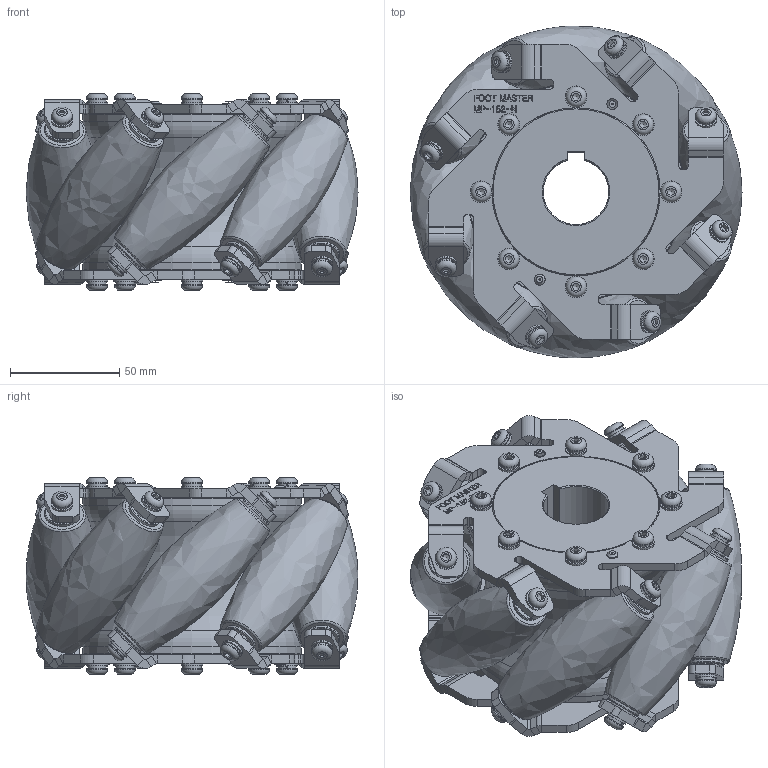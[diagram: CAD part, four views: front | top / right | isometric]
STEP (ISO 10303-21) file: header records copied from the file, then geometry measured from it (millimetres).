
FILE_DESCRIPTION(/* description */ (''),/* implementation_level */ '2;1');
FILE_NAME(/* name */ 'Y:\1.기술연구소\2.연구개발 진행중\122.Mecanum Wheel_2024.11.22\MECHANUM WHEEL MDWP-176-90\04. 전송파일\영업부\20250904\MP-152-N-HUD.stp',/* time_stamp */ '2025-09-05T11:21:45+09:00',/* author */ ('장용하'),/* organization */ (''),/* preprocessor_version */ 'ST-DEVELOPER v18.1',/* originating_system */ 'Autodesk Inventor 2021',/* authorisation */ '');
FILE_SCHEMA (('AUTOMOTIVE_DESIGN { 1 0 10303 214 3 1 1 }'));
Products named in the file (1): MP-152-N-HUD
Bounding box: 152 x 152 x 90.1 mm (x, y, z)
Volume: 969123.8 mm3; surface area: 152406.3 mm2
Topology: 1 solids, 1 shells, 2157 faces, 5929 edges, 3906 vertices
Faces by surface type: plane 995, bspline 608, cylinder 393, torus 99, cone 62
Full cylindrical faces by diameter (mm): 5 x36, 5.3 x32, 9.5 x32, 10 x32, 12 x16, 16 x16, 77 x2, 100 x2
Entity records: 70261 total; most frequent: CARTESIAN_POINT 18621, ORIENTED_EDGE 11786, DIRECTION 9258, EDGE_CURVE 5893, VERTEX_POINT 3906, AXIS2_PLACEMENT_3D 3275, LINE 2708, VECTOR 2708
